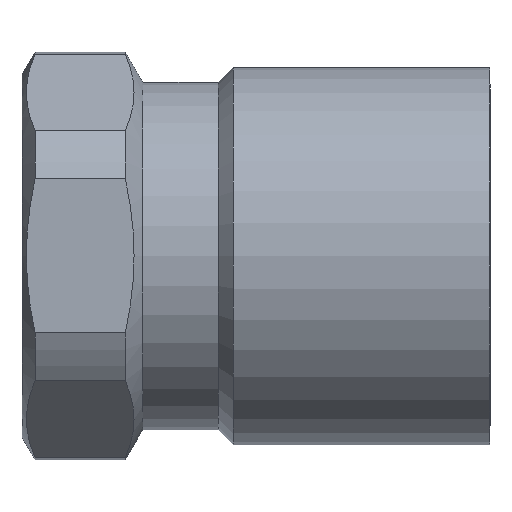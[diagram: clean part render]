
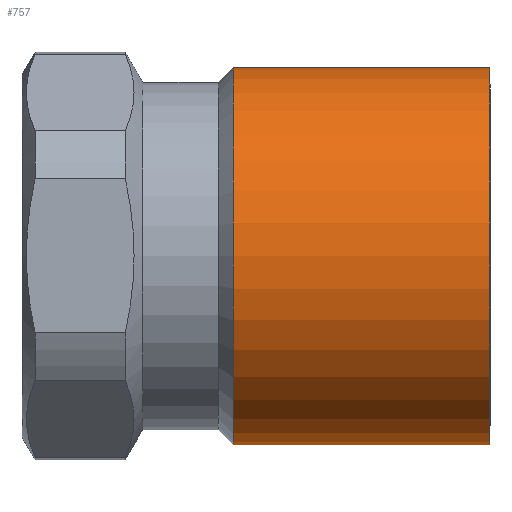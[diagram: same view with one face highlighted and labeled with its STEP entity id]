
A CAD part, top view. The second image highlights one B-rep face of the part: STEP entity #757.
In plain terms, the highlighted cylindrical face has radius 12.5 mm (diameter 25 mm), a full revolution.
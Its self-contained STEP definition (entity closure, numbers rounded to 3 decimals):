
#723=CARTESIAN_POINT('',(14.0,12.5,0.0));
#724=VERTEX_POINT('',#723);
#725=CARTESIAN_POINT('',(14.,0.,0.0));
#726=DIRECTION('',(1.0,0.0,0.0));
#727=DIRECTION('',(0.0,1.0,0.0));
#728=AXIS2_PLACEMENT_3D('',#725,#726,#727);
#729=CIRCLE('',#728,12.5);
#730=EDGE_CURVE('',#724,#724,#729,.T.);
#738=CARTESIAN_POINT('',(22.5,0.,0.0));
#739=DIRECTION('',(1.0,0.,0.0));
#740=DIRECTION('',(0.0,1.0,0.0));
#741=AXIS2_PLACEMENT_3D('',#738,#739,#740);
#742=CYLINDRICAL_SURFACE('',#741,12.5);
#743=CARTESIAN_POINT('',(31.0,12.5,0.0));
#744=VERTEX_POINT('',#743);
#745=CARTESIAN_POINT('',(31.0,0.,0.0));
#746=DIRECTION('',(1.0,0.0,0.0));
#747=DIRECTION('',(0.0,1.0,0.0));
#748=AXIS2_PLACEMENT_3D('',#745,#746,#747);
#749=CIRCLE('',#748,12.5);
#750=EDGE_CURVE('',#744,#744,#749,.T.);
#751=ORIENTED_EDGE('',*,*,#750,.F.);
#752=EDGE_LOOP('',(#751));
#753=FACE_OUTER_BOUND('',#752,.T.);
#754=ORIENTED_EDGE('',*,*,#730,.T.);
#755=EDGE_LOOP('',(#754));
#756=FACE_BOUND('',#755,.T.);
#757=ADVANCED_FACE('',(#753,#756),#742,.T.);
